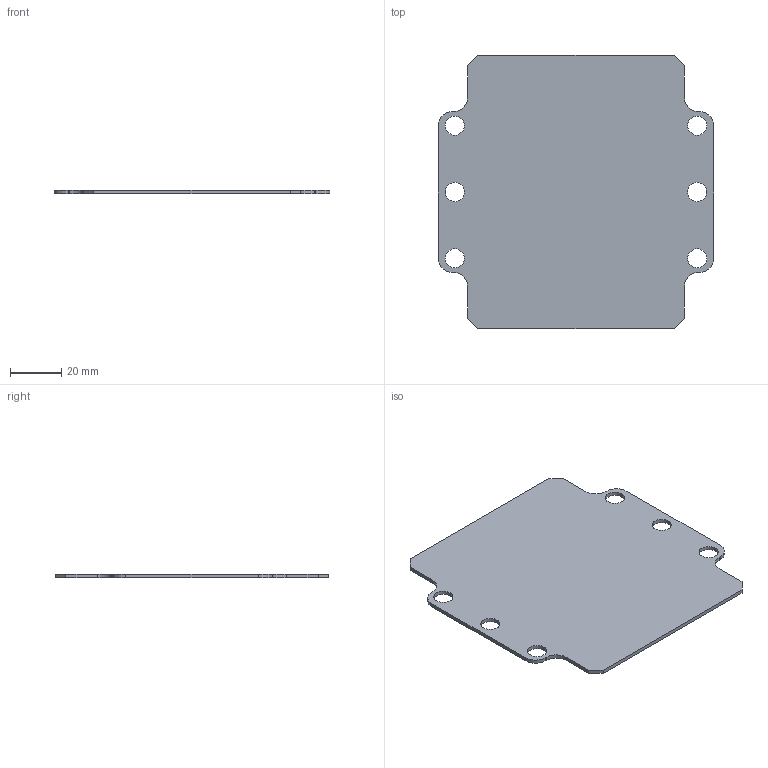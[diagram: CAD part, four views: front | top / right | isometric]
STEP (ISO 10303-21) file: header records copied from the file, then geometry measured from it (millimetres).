
FILE_DESCRIPTION (( 'STEP AP203' ), '1' );
FILE_NAME ('a122120p.STEP', '2013-06-05T17:49:15', ( 'User' ), ( 'Pentair Inc' ), 'SwSTEP 2.0', 'SolidWorks 2010', '' );
FILE_SCHEMA (( 'CONFIG_CONTROL_DESIGN' ));
Length unit declared in the file: inch
Products named in the file (1): a122120p
Bounding box: 108 x 107 x 1.5 mm (x, y, z)
Volume: 15370.4 mm3; surface area: 21308.5 mm2
Topology: 1 solids, 1 shells, 38 faces, 108 edges, 72 vertices
Faces by surface type: cylinder 20, plane 18
Entity records: 1355 total; most frequent: DIRECTION 226, CARTESIAN_POINT 219, ORIENTED_EDGE 216, EDGE_CURVE 108, AXIS2_PLACEMENT_3D 79, VERTEX_POINT 72, VECTOR 68, LINE 68
